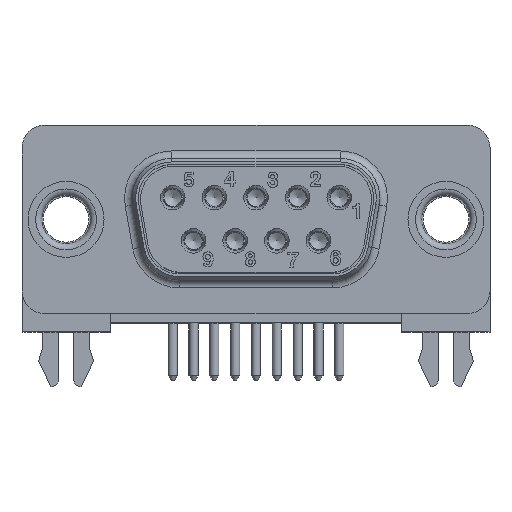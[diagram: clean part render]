
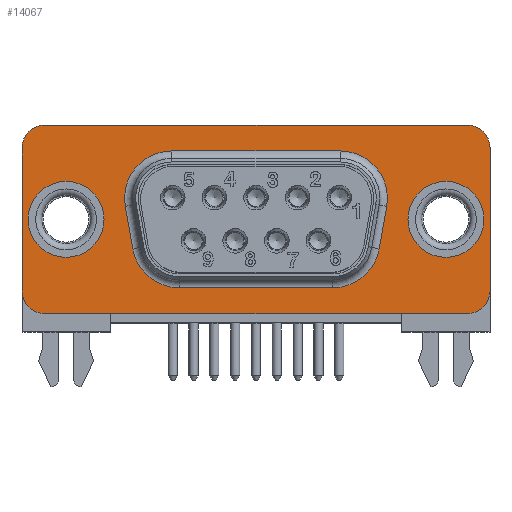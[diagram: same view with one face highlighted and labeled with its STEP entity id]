
A CAD part, top view. The second image highlights one B-rep face of the part: STEP entity #14067.
In plain terms, the highlighted planar face has unit normal (0, 0, 1) as drawn and (0, 0, -1) by its records, which use the part's own axes.
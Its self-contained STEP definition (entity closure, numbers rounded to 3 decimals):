
#987=FACE_BOUND('',#3003,.T.);
#988=FACE_BOUND('',#3004,.T.);
#989=FACE_BOUND('',#3005,.T.);
#1407=PLANE('',#15563);
#2137=FACE_OUTER_BOUND('',#3002,.T.);
#3002=EDGE_LOOP('',(#12820,#12821,#12822,#12823,#12824,#12825,#12826,#12827));
#3003=EDGE_LOOP('',(#12828));
#3004=EDGE_LOOP('',(#12829));
#3005=EDGE_LOOP('',(#12830,#12831,#12832,#12833,#12834,#12835,#12836,#12837));
#4170=LINE('',#28040,#5374);
#4171=LINE('',#28056,#5375);
#4173=LINE('',#28061,#5377);
#4175=LINE('',#28074,#5379);
#4179=LINE('',#28086,#5383);
#4180=LINE('',#28090,#5384);
#4181=LINE('',#28094,#5385);
#4182=LINE('',#28097,#5386);
#5374=VECTOR('',#19111,10.113);
#5375=VECTOR('',#19132,2.843);
#5377=VECTOR('',#19138,2.843);
#5379=VECTOR('',#19156,11.1);
#5383=VECTOR('',#19170,9.4);
#5384=VECTOR('',#19173,27.8);
#5385=VECTOR('',#19176,9.4);
#5386=VECTOR('',#19179,27.8);
#6012=CIRCLE('',#15543,3.1);
#6015=CIRCLE('',#15547,3.1);
#6019=CIRCLE('',#15554,3.1);
#6022=CIRCLE('',#15558,3.1);
#6023=CIRCLE('',#15564,1.5);
#6024=CIRCLE('',#15565,1.5);
#6025=CIRCLE('',#15566,1.5);
#6026=CIRCLE('',#15567,1.5);
#6027=CIRCLE('',#15568,2.5);
#6028=CIRCLE('',#15569,2.5);
#7224=VERTEX_POINT('',#28037);
#7225=VERTEX_POINT('',#28039);
#7227=VERTEX_POINT('',#28044);
#7228=VERTEX_POINT('',#28049);
#7230=VERTEX_POINT('',#28054);
#7231=VERTEX_POINT('',#28059);
#7233=VERTEX_POINT('',#28064);
#7234=VERTEX_POINT('',#28069);
#7235=VERTEX_POINT('',#28082);
#7236=VERTEX_POINT('',#28083);
#7237=VERTEX_POINT('',#28085);
#7238=VERTEX_POINT('',#28087);
#7239=VERTEX_POINT('',#28089);
#7240=VERTEX_POINT('',#28091);
#7241=VERTEX_POINT('',#28093);
#7242=VERTEX_POINT('',#28095);
#7243=VERTEX_POINT('',#28098);
#7244=VERTEX_POINT('',#28100);
#9106=EDGE_CURVE('',#7224,#7225,#4170,.T.);
#9109=EDGE_CURVE('',#7227,#7224,#6012,.T.);
#9112=EDGE_CURVE('',#7225,#7228,#6015,.T.);
#9114=EDGE_CURVE('',#7230,#7227,#4171,.T.);
#9117=EDGE_CURVE('',#7228,#7231,#4173,.T.);
#9119=EDGE_CURVE('',#7233,#7230,#6019,.T.);
#9122=EDGE_CURVE('',#7231,#7234,#6022,.T.);
#9124=EDGE_CURVE('',#7234,#7233,#4175,.T.);
#9128=EDGE_CURVE('',#7235,#7236,#6023,.T.);
#9129=EDGE_CURVE('',#7237,#7235,#4179,.T.);
#9130=EDGE_CURVE('',#7238,#7237,#6024,.T.);
#9131=EDGE_CURVE('',#7239,#7238,#4180,.T.);
#9132=EDGE_CURVE('',#7240,#7239,#6025,.T.);
#9133=EDGE_CURVE('',#7241,#7240,#4181,.T.);
#9134=EDGE_CURVE('',#7242,#7241,#6026,.T.);
#9135=EDGE_CURVE('',#7236,#7242,#4182,.T.);
#9136=EDGE_CURVE('',#7243,#7243,#6027,.T.);
#9137=EDGE_CURVE('',#7244,#7244,#6028,.T.);
#12820=ORIENTED_EDGE('',*,*,#9128,.F.);
#12821=ORIENTED_EDGE('',*,*,#9129,.F.);
#12822=ORIENTED_EDGE('',*,*,#9130,.F.);
#12823=ORIENTED_EDGE('',*,*,#9131,.F.);
#12824=ORIENTED_EDGE('',*,*,#9132,.F.);
#12825=ORIENTED_EDGE('',*,*,#9133,.F.);
#12826=ORIENTED_EDGE('',*,*,#9134,.F.);
#12827=ORIENTED_EDGE('',*,*,#9135,.F.);
#12828=ORIENTED_EDGE('',*,*,#9136,.T.);
#12829=ORIENTED_EDGE('',*,*,#9137,.T.);
#12830=ORIENTED_EDGE('',*,*,#9106,.F.);
#12831=ORIENTED_EDGE('',*,*,#9109,.F.);
#12832=ORIENTED_EDGE('',*,*,#9114,.F.);
#12833=ORIENTED_EDGE('',*,*,#9119,.F.);
#12834=ORIENTED_EDGE('',*,*,#9124,.F.);
#12835=ORIENTED_EDGE('',*,*,#9122,.F.);
#12836=ORIENTED_EDGE('',*,*,#9117,.F.);
#12837=ORIENTED_EDGE('',*,*,#9112,.F.);
#14067=ADVANCED_FACE('',(#2137,#987,#988,#989),#1407,.F.);
#15543=AXIS2_PLACEMENT_3D('',#28046,#19118,#19119);
#15547=AXIS2_PLACEMENT_3D('',#28051,#19126,#19127);
#15554=AXIS2_PLACEMENT_3D('',#28066,#19143,#19144);
#15558=AXIS2_PLACEMENT_3D('',#28071,#19151,#19152);
#15563=AXIS2_PLACEMENT_3D('',#28081,#19166,#19167);
#15564=AXIS2_PLACEMENT_3D('',#28084,#19168,#19169);
#15565=AXIS2_PLACEMENT_3D('',#28088,#19171,#19172);
#15566=AXIS2_PLACEMENT_3D('',#28092,#19174,#19175);
#15567=AXIS2_PLACEMENT_3D('',#28096,#19177,#19178);
#15568=AXIS2_PLACEMENT_3D('',#28099,#19180,#19181);
#15569=AXIS2_PLACEMENT_3D('',#28101,#19182,#19183);
#19111=DIRECTION('',(-1.,0.,0.));
#19118=DIRECTION('center_axis',(0.,0.,-1.));
#19119=DIRECTION('ref_axis',(0.643,-0.766,0.));
#19126=DIRECTION('center_axis',(0.,0.,-1.));
#19127=DIRECTION('ref_axis',(-0.643,-0.766,0.));
#19132=DIRECTION('',(-0.174,-0.985,0.));
#19138=DIRECTION('',(-0.174,0.985,0.));
#19143=DIRECTION('center_axis',(0.,0.,-1.));
#19144=DIRECTION('ref_axis',(0.766,0.643,0.));
#19151=DIRECTION('center_axis',(0.,0.,-1.));
#19152=DIRECTION('ref_axis',(-0.766,0.643,0.));
#19156=DIRECTION('',(1.,0.,0.));
#19166=DIRECTION('center_axis',(0.,0.,1.));
#19167=DIRECTION('ref_axis',(1.,0.,0.));
#19168=DIRECTION('center_axis',(0.,0.,1.));
#19169=DIRECTION('ref_axis',(0.707,0.707,0.));
#19170=DIRECTION('',(0.,1.,0.));
#19171=DIRECTION('center_axis',(0.,0.,1.));
#19172=DIRECTION('ref_axis',(0.707,-0.707,0.));
#19173=DIRECTION('',(1.,0.,0.));
#19174=DIRECTION('center_axis',(0.,0.,1.));
#19175=DIRECTION('ref_axis',(-0.707,-0.707,0.));
#19176=DIRECTION('',(0.,-1.,0.));
#19177=DIRECTION('center_axis',(0.,0.,1.));
#19178=DIRECTION('ref_axis',(-0.707,0.707,0.));
#19179=DIRECTION('',(-1.,0.,0.));
#19180=DIRECTION('center_axis',(0.,0.,1.));
#19181=DIRECTION('ref_axis',(-1.,0.,0.));
#19182=DIRECTION('center_axis',(0.,0.,1.));
#19183=DIRECTION('ref_axis',(-1.,0.,0.));
#28037=CARTESIAN_POINT('',(5.056,-4.5,-0.4));
#28039=CARTESIAN_POINT('',(-5.056,-4.5,-0.4));
#28040=CARTESIAN_POINT('',(3.868,-4.5,-0.4));
#28044=CARTESIAN_POINT('',(8.109,-1.938,-0.4));
#28046=CARTESIAN_POINT('Origin',(5.056,-1.4,-0.4));
#28049=CARTESIAN_POINT('',(-8.109,-1.938,-0.4));
#28051=CARTESIAN_POINT('Origin',(-5.056,-1.4,-0.4));
#28054=CARTESIAN_POINT('',(8.603,0.862,-0.4));
#28056=CARTESIAN_POINT('',(8.272,-1.017,-0.4));
#28059=CARTESIAN_POINT('',(-8.603,0.862,-0.4));
#28061=CARTESIAN_POINT('',(-8.285,-0.94,-0.4));
#28064=CARTESIAN_POINT('',(5.55,4.5,-0.4));
#28066=CARTESIAN_POINT('Origin',(5.55,1.4,-0.4));
#28069=CARTESIAN_POINT('',(-5.55,4.5,-0.4));
#28071=CARTESIAN_POINT('Origin',(-5.55,1.4,-0.4));
#28074=CARTESIAN_POINT('',(3.868,4.5,-0.4));
#28081=CARTESIAN_POINT('Origin',(7.735,0.027,-0.4));
#28082=CARTESIAN_POINT('',(15.4,4.7,-0.4));
#28083=CARTESIAN_POINT('',(13.9,6.2,-0.4));
#28084=CARTESIAN_POINT('Origin',(13.9,4.7,-0.4));
#28085=CARTESIAN_POINT('',(15.4,-4.7,-0.4));
#28086=CARTESIAN_POINT('',(15.4,-6.2,-0.4));
#28087=CARTESIAN_POINT('',(13.9,-6.2,-0.4));
#28088=CARTESIAN_POINT('Origin',(13.9,-4.7,-0.4));
#28089=CARTESIAN_POINT('',(-13.9,-6.2,-0.4));
#28090=CARTESIAN_POINT('',(-15.4,-6.2,-0.4));
#28091=CARTESIAN_POINT('',(-15.4,-4.7,-0.4));
#28092=CARTESIAN_POINT('Origin',(-13.9,-4.7,-0.4));
#28093=CARTESIAN_POINT('',(-15.4,4.7,-0.4));
#28094=CARTESIAN_POINT('',(-15.4,6.2,-0.4));
#28095=CARTESIAN_POINT('',(-13.9,6.2,-0.4));
#28096=CARTESIAN_POINT('Origin',(-13.9,4.7,-0.4));
#28097=CARTESIAN_POINT('',(15.4,6.2,-0.4));
#28098=CARTESIAN_POINT('',(15.,0.,-0.4));
#28099=CARTESIAN_POINT('Origin',(12.5,0.,-0.4));
#28100=CARTESIAN_POINT('',(-10.,0.,-0.4));
#28101=CARTESIAN_POINT('Origin',(-12.5,0.,-0.4));
